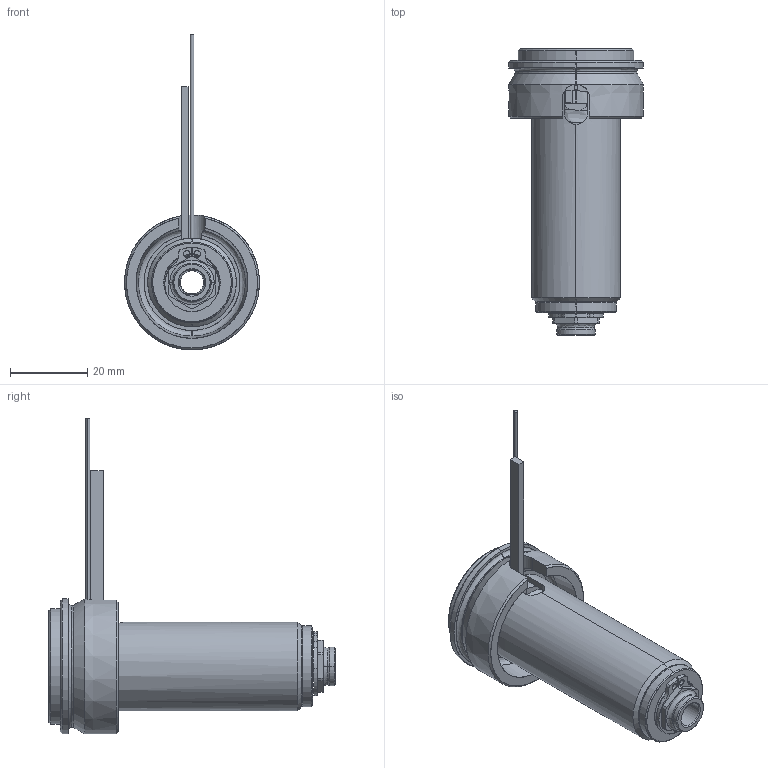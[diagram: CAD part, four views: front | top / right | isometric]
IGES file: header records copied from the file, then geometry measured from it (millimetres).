
Start section: SolidWorks IGES file using analytic representation for surfaces
Global section: file name: C:\Documents and Settings\ws-20\Desktop\TEM\UGEP3051-M-A-1 [Øf-0.90 ØC-6.0].IGS; native system: SolidWorks 2012; preprocessor: SolidWorks 2012; author: ws-20; date: 120402.112631; units: millimetre
Bounding box: 35 x 74.3 x 81.9 mm (x, y, z)
Surface area: 17242.3 mm2 (no closed solid volume)
Topology: 0 solids, 0 shells, 123 faces, 1756 edges, 1756 vertices
Faces by surface type: revolution 75, bspline 48
